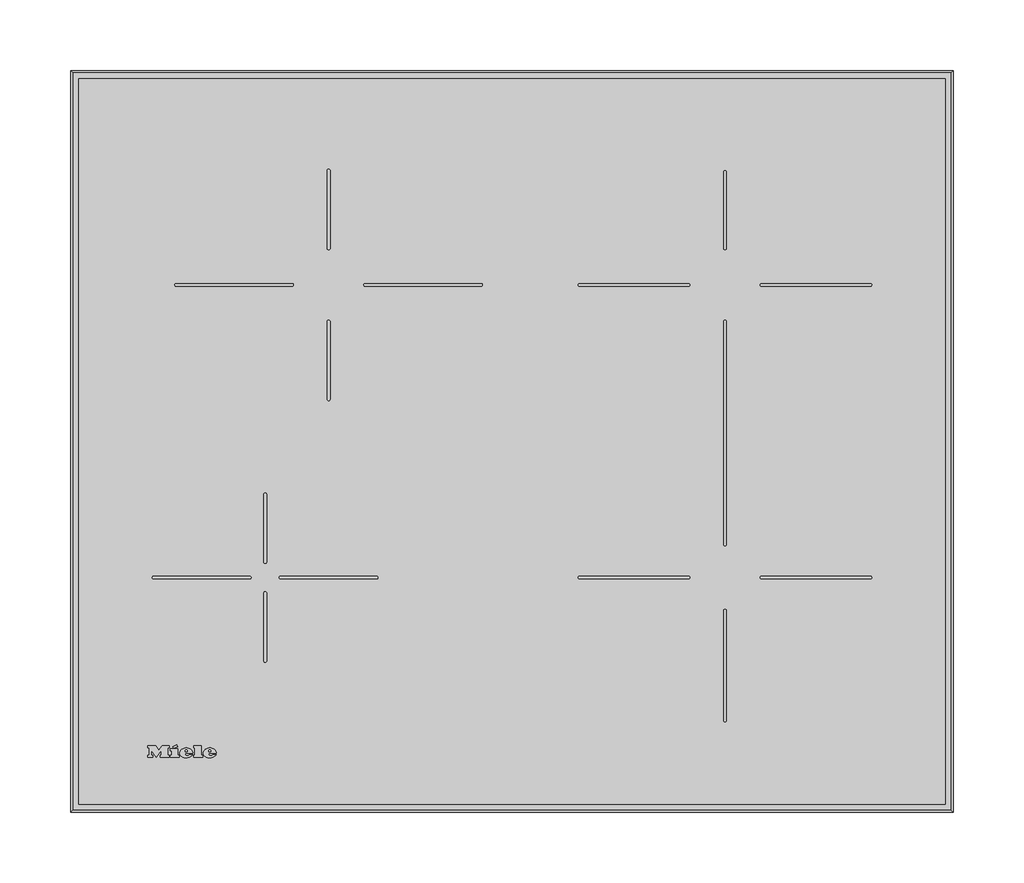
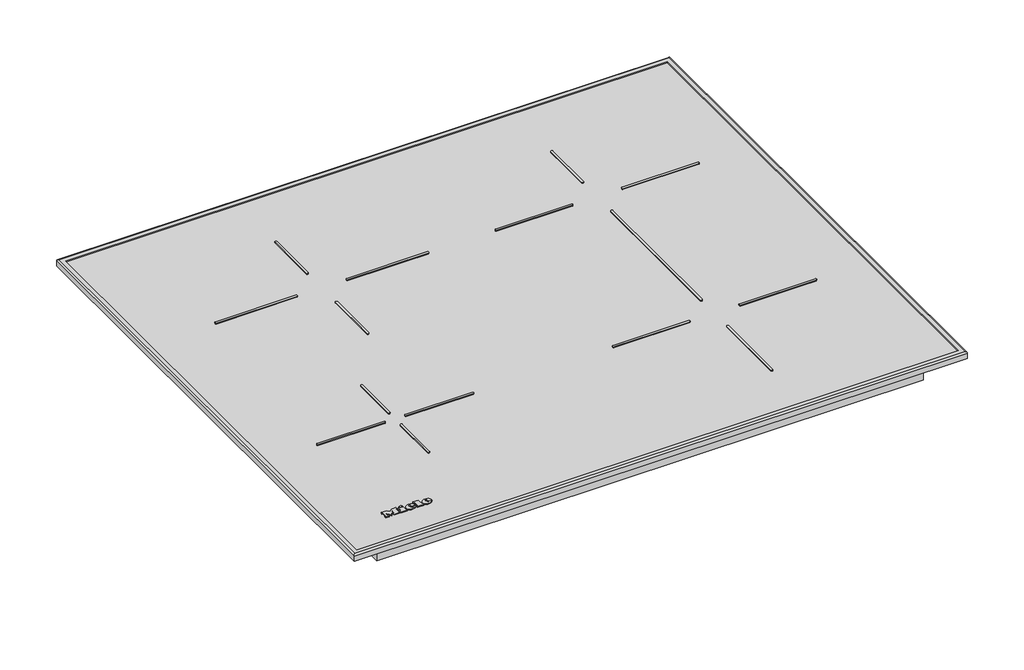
# Not in any storey: 1 proxy.
"""IFC4 building model written with IfcOpenShell, lengths in millimetres."""

from ifc_helpers import new_model, si_unit, origin, place, context, project, spatial, transform, mapped, element, save
from components import specialty_equipment_7da67e32

model = new_model("IFC4")

# Units and contexts
model_context = context("Model", 3, world=origin())
ifc_project = project(units=[si_unit("LENGTHUNIT", "METRE", prefix="MILLI")], contexts=[model_context])

# Site, building
site = spatial("IfcSite", under=ifc_project)
building = spatial("IfcBuilding", under=site)

# Proxy
placement = place(None, origin())
specialty_equipment_shape = specialty_equipment_7da67e32(model_context)
element("IfcBuildingElementProxy", 1, Name="12337600_D_KM7062FR : 26706210_D_12337600_KM7062FR", ObjectType="12337600_D_KM7062FR : 26706210_D_12337600_KM7062FR", at=placement, inside=building, context=model_context, shape_type="MappedRepresentation", body=[
    mapped(specialty_equipment_shape, transform((0.0, 0.0, 0.0), x_axis=(1.0, 0.0, 0.0), y_axis=(0.0, 1.0, 0.0), z_axis=(0.0, 0.0, 1.0))),
])

save(model, "model.ifc")
